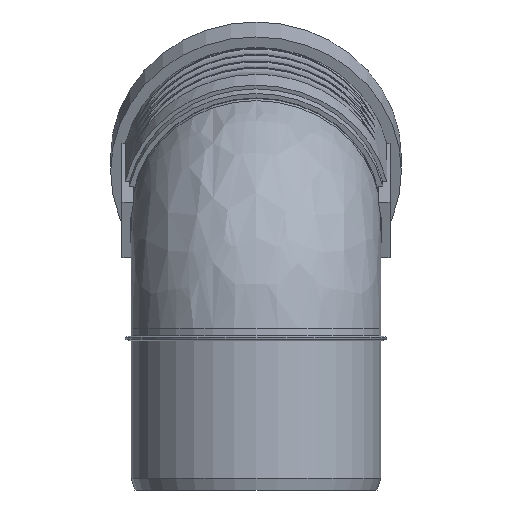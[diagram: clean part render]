
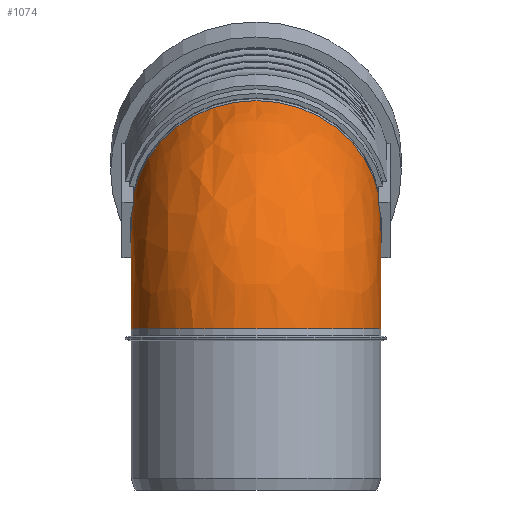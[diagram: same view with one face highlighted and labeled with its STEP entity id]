
A CAD part, left-side view. The second image highlights one B-rep face of the part: STEP entity #1074.
In plain terms, the highlighted free-form (B-spline) face has degree [2, 2] with [9, 9] control points.
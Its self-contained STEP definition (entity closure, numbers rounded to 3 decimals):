
#142=(
BOUNDED_SURFACE()
B_SPLINE_SURFACE(2,2,((#1588,#1589,#1590,#1591,#1592,#1593,#1594,#1595,
#1596),(#1597,#1598,#1599,#1600,#1601,#1602,#1603,#1604,#1605),(#1606,#1607,
#1608,#1609,#1610,#1611,#1612,#1613,#1614),(#1615,#1616,#1617,#1618,#1619,
#1620,#1621,#1622,#1623),(#1624,#1625,#1626,#1627,#1628,#1629,#1630,#1631,
#1632),(#1633,#1634,#1635,#1636,#1637,#1638,#1639,#1640,#1641),(#1642,#1643,
#1644,#1645,#1646,#1647,#1648,#1649,#1650),(#1651,#1652,#1653,#1654,#1655,
#1656,#1657,#1658,#1659),(#1660,#1661,#1662,#1663,#1664,#1665,#1666,#1667,
#1668)),.UNSPECIFIED.,.T.,.T.,.F.)
B_SPLINE_SURFACE_WITH_KNOTS((3,2,2,2,3),(3,2,2,2,3),(-3.142,
-1.571,0.,1.571,3.142),(-3.142,
-1.571,0.,1.571,3.142),.UNSPECIFIED.)
GEOMETRIC_REPRESENTATION_ITEM()
RATIONAL_B_SPLINE_SURFACE(((1.,0.707,1.,0.707,1.,
0.707,1.,0.707,1.),(0.707,0.5,
0.707,0.5,0.707,0.5,
0.707,0.5,0.707),(1.,0.707,
1.,0.707,1.,0.707,1.,0.707,1.),(0.707,
0.5,0.707,0.5,0.707,0.5,0.707,0.5,0.707),
(1.,0.707,1.,0.707,1.,0.707,1.,0.707,
1.),(0.707,0.5,0.707,0.5,0.707,0.5,
0.707,0.5,0.707),(1.,0.707,1.,0.707,
1.,0.707,1.,0.707,1.),(0.707,0.5,
0.707,0.5,0.707,0.5,
0.707,0.5,0.707),(1.,0.707,
1.,0.707,1.,0.707,1.,0.707,1.)))
REPRESENTATION_ITEM($)
SURFACE()
);
#260=FACE_OUTER_BOUND($,#331,.T.);
#331=EDGE_LOOP($,(#734,#735));
#425=CIRCLE($,#1158,62.6);
#426=CIRCLE($,#1159,62.6);
#480=VERTEX_POINT($,#1586);
#586=EDGE_CURVE($,#480,#480,#425,.T.);
#587=EDGE_CURVE($,#480,#480,#426,.T.);
#734=ORIENTED_EDGE($,*,*,#586,.T.);
#735=ORIENTED_EDGE($,*,*,#587,.F.);
#1074=ADVANCED_FACE($,(#260),#142,.F.);
#1158=AXIS2_PLACEMENT_3D($,#1587,#1307,#1308);
#1159=AXIS2_PLACEMENT_3D($,#1669,#1309,#1310);
#1307=DIRECTION('center_axis',(-0.924,0.,-0.383));
#1308=DIRECTION('ref_axis',(-0.383,0.,0.924));
#1309=DIRECTION('center_axis',(0.,0.,-1.));
#1310=DIRECTION('ref_axis',(-1.,0.,0.));
#1586=CARTESIAN_POINT('',(62.6,0.,80.8));
#1587=CARTESIAN_POINT('Origin',(38.644,0.,138.635));
#1588=CARTESIAN_POINT('Ctrl Pts',(62.6,0.,80.8));
#1589=CARTESIAN_POINT('Ctrl Pts',(62.6,0.,80.8));
#1590=CARTESIAN_POINT('Ctrl Pts',(62.6,0.,80.8));
#1591=CARTESIAN_POINT('Ctrl Pts',(62.6,0.,80.8));
#1592=CARTESIAN_POINT('Ctrl Pts',(62.6,0.,80.8));
#1593=CARTESIAN_POINT('Ctrl Pts',(62.6,0.,80.8));
#1594=CARTESIAN_POINT('Ctrl Pts',(62.6,0.,80.8));
#1595=CARTESIAN_POINT('Ctrl Pts',(62.6,0.,80.8));
#1596=CARTESIAN_POINT('Ctrl Pts',(62.6,0.,80.8));
#1597=CARTESIAN_POINT('Ctrl Pts',(62.6,-62.6,80.8));
#1598=CARTESIAN_POINT('Ctrl Pts',(62.6,-62.6,80.8));
#1599=CARTESIAN_POINT('Ctrl Pts',(62.6,-62.6,80.8));
#1600=CARTESIAN_POINT('Ctrl Pts',(62.6,-62.6,80.8));
#1601=CARTESIAN_POINT('Ctrl Pts',(62.6,-62.6,80.8));
#1602=CARTESIAN_POINT('Ctrl Pts',(62.6,-62.6,80.8));
#1603=CARTESIAN_POINT('Ctrl Pts',(62.6,-62.6,80.8));
#1604=CARTESIAN_POINT('Ctrl Pts',(62.6,-62.6,80.8));
#1605=CARTESIAN_POINT('Ctrl Pts',(62.6,-62.6,80.8));
#1606=CARTESIAN_POINT('Ctrl Pts',(62.6,-62.6,18.2));
#1607=CARTESIAN_POINT('Ctrl Pts',(0.,-62.6,18.2));
#1608=CARTESIAN_POINT('Ctrl Pts',(0.,-62.6,80.8));
#1609=CARTESIAN_POINT('Ctrl Pts',(0.,-62.6,143.4));
#1610=CARTESIAN_POINT('Ctrl Pts',(62.6,-62.6,143.4));
#1611=CARTESIAN_POINT('Ctrl Pts',(125.2,-62.6,143.4));
#1612=CARTESIAN_POINT('Ctrl Pts',(125.2,-62.6,80.8));
#1613=CARTESIAN_POINT('Ctrl Pts',(125.2,-62.6,18.2));
#1614=CARTESIAN_POINT('Ctrl Pts',(62.6,-62.6,18.2));
#1615=CARTESIAN_POINT('Ctrl Pts',(62.6,-62.6,-44.4));
#1616=CARTESIAN_POINT('Ctrl Pts',(-62.6,-62.6,-44.4));
#1617=CARTESIAN_POINT('Ctrl Pts',(-62.6,-62.6,80.8));
#1618=CARTESIAN_POINT('Ctrl Pts',(-62.6,-62.6,206.));
#1619=CARTESIAN_POINT('Ctrl Pts',(62.6,-62.6,206.));
#1620=CARTESIAN_POINT('Ctrl Pts',(187.8,-62.6,206.));
#1621=CARTESIAN_POINT('Ctrl Pts',(187.8,-62.6,80.8));
#1622=CARTESIAN_POINT('Ctrl Pts',(187.8,-62.6,-44.4));
#1623=CARTESIAN_POINT('Ctrl Pts',(62.6,-62.6,-44.4));
#1624=CARTESIAN_POINT('Ctrl Pts',(62.6,0.,-44.4));
#1625=CARTESIAN_POINT('Ctrl Pts',(-62.6,0.,-44.4));
#1626=CARTESIAN_POINT('Ctrl Pts',(-62.6,0.,80.8));
#1627=CARTESIAN_POINT('Ctrl Pts',(-62.6,0.,206.));
#1628=CARTESIAN_POINT('Ctrl Pts',(62.6,0.,206.));
#1629=CARTESIAN_POINT('Ctrl Pts',(187.8,0.,206.));
#1630=CARTESIAN_POINT('Ctrl Pts',(187.8,0.,80.8));
#1631=CARTESIAN_POINT('Ctrl Pts',(187.8,0.,-44.4));
#1632=CARTESIAN_POINT('Ctrl Pts',(62.6,0.,-44.4));
#1633=CARTESIAN_POINT('Ctrl Pts',(62.6,62.6,-44.4));
#1634=CARTESIAN_POINT('Ctrl Pts',(-62.6,62.6,-44.4));
#1635=CARTESIAN_POINT('Ctrl Pts',(-62.6,62.6,80.8));
#1636=CARTESIAN_POINT('Ctrl Pts',(-62.6,62.6,206.));
#1637=CARTESIAN_POINT('Ctrl Pts',(62.6,62.6,206.));
#1638=CARTESIAN_POINT('Ctrl Pts',(187.8,62.6,206.));
#1639=CARTESIAN_POINT('Ctrl Pts',(187.8,62.6,80.8));
#1640=CARTESIAN_POINT('Ctrl Pts',(187.8,62.6,-44.4));
#1641=CARTESIAN_POINT('Ctrl Pts',(62.6,62.6,-44.4));
#1642=CARTESIAN_POINT('Ctrl Pts',(62.6,62.6,18.2));
#1643=CARTESIAN_POINT('Ctrl Pts',(0.,62.6,18.2));
#1644=CARTESIAN_POINT('Ctrl Pts',(0.,62.6,80.8));
#1645=CARTESIAN_POINT('Ctrl Pts',(0.,62.6,143.4));
#1646=CARTESIAN_POINT('Ctrl Pts',(62.6,62.6,143.4));
#1647=CARTESIAN_POINT('Ctrl Pts',(125.2,62.6,143.4));
#1648=CARTESIAN_POINT('Ctrl Pts',(125.2,62.6,80.8));
#1649=CARTESIAN_POINT('Ctrl Pts',(125.2,62.6,18.2));
#1650=CARTESIAN_POINT('Ctrl Pts',(62.6,62.6,18.2));
#1651=CARTESIAN_POINT('Ctrl Pts',(62.6,62.6,80.8));
#1652=CARTESIAN_POINT('Ctrl Pts',(62.6,62.6,80.8));
#1653=CARTESIAN_POINT('Ctrl Pts',(62.6,62.6,80.8));
#1654=CARTESIAN_POINT('Ctrl Pts',(62.6,62.6,80.8));
#1655=CARTESIAN_POINT('Ctrl Pts',(62.6,62.6,80.8));
#1656=CARTESIAN_POINT('Ctrl Pts',(62.6,62.6,80.8));
#1657=CARTESIAN_POINT('Ctrl Pts',(62.6,62.6,80.8));
#1658=CARTESIAN_POINT('Ctrl Pts',(62.6,62.6,80.8));
#1659=CARTESIAN_POINT('Ctrl Pts',(62.6,62.6,80.8));
#1660=CARTESIAN_POINT('Ctrl Pts',(62.6,0.,80.8));
#1661=CARTESIAN_POINT('Ctrl Pts',(62.6,0.,80.8));
#1662=CARTESIAN_POINT('Ctrl Pts',(62.6,0.,80.8));
#1663=CARTESIAN_POINT('Ctrl Pts',(62.6,0.,80.8));
#1664=CARTESIAN_POINT('Ctrl Pts',(62.6,0.,80.8));
#1665=CARTESIAN_POINT('Ctrl Pts',(62.6,0.,80.8));
#1666=CARTESIAN_POINT('Ctrl Pts',(62.6,0.,80.8));
#1667=CARTESIAN_POINT('Ctrl Pts',(62.6,0.,80.8));
#1668=CARTESIAN_POINT('Ctrl Pts',(62.6,0.,80.8));
#1669=CARTESIAN_POINT('Origin',(0.,0.,80.8));
